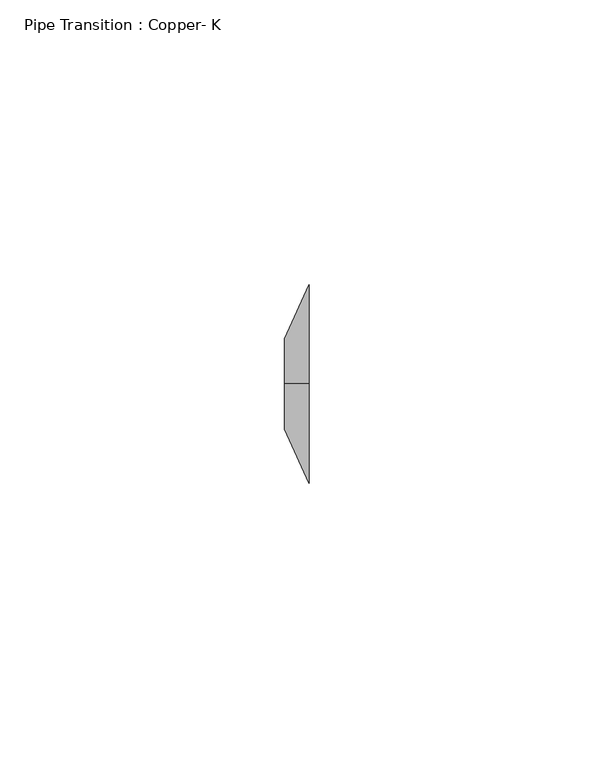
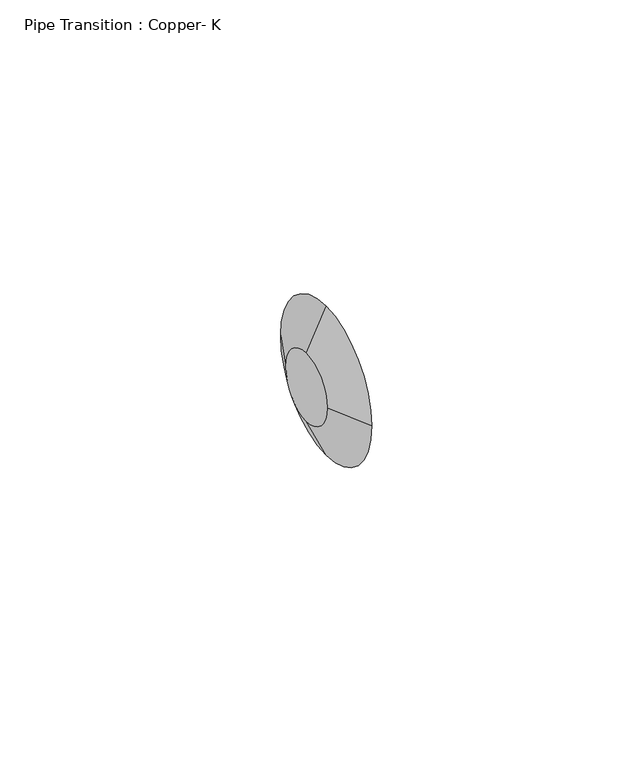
"""IFC4 building model written with IfcOpenShell, lengths in millimetres: pipe fitting geometry, Pipe Transition : Copper- K."""

from ifc_helpers import new_model, si_unit, frame, origin, place, context, project, spatial, polyline, circle_curve, source, transform, mapped, element, save
from ifc_brep_helpers import plane_surface, revolved_surface, advanced_brep


def pipe_transition_copper_k_2a5e9307(model_context):
    return source(origin(), model_context, "Body", "AdvancedBrep", [
        advanced_brep(
        [(4.365625, 0.0, 17.4625), (4.365625, -17.4625, 0.0), (4.365625, 0.0, -17.4625), (4.365625, 17.4625, 0.0), (0.0, 0.0, 7.9375), (0.0, 7.9375, 0.0), (0.0, 0.0, -7.9375), (0.0, -7.9375, 0.0)],
        [
            (0, 1, circle_curve(frame((4.365625, 0.0, 0.0), z_axis=(1.0, 0.0, 0.0), x_axis=(0.0, 0.0, 1.0)), 17.4625)),
            (1, 2, circle_curve(frame((4.365625, 0.0, 0.0), z_axis=(1.0, 0.0, 0.0), x_axis=(0.0, -1.0, 0.0)), 17.4625)),
            (2, 3, circle_curve(frame((4.365625, 0.0, 0.0), z_axis=(1.0, 0.0, 0.0), x_axis=(0.0, 0.0, -1.0)), 17.4625)),
            (3, 0, circle_curve(frame((4.365625, 0.0, 0.0), z_axis=(1.0, 0.0, 0.0), x_axis=(0.0, 1.0, 0.0)), 17.4625)),
            (4, 5, circle_curve(frame((0.0, 0.0, 0.0), z_axis=(-1.0, 0.0, 0.0), x_axis=(0.0, 1.0, 0.0)), 7.9375)),
            (5, 6, circle_curve(frame((0.0, 0.0, 0.0), z_axis=(-1.0, 0.0, 0.0), x_axis=(0.0, 0.0, -1.0)), 7.9375)),
            (6, 7, circle_curve(frame((0.0, 0.0, 0.0), z_axis=(-1.0, 0.0, 0.0), x_axis=(0.0, -1.0, 0.0)), 7.9375)),
            (7, 4, circle_curve(frame((0.0, 0.0, 0.0), z_axis=(-1.0, 0.0, 0.0), x_axis=(0.0, 0.0, 1.0)), 7.9375)),
            (7, 1),
            (0, 4),
            (6, 2),
            (5, 3),
        ],
        [
            plane_surface(frame((4.365625, 0.0, 0.0), z_axis=(1.0, 0.0, 0.0), x_axis=(0.0, -1.0, 0.0))),
            plane_surface(frame((0.0, 0.0, 0.0), z_axis=(-1.0, 0.0, 0.0), x_axis=(0.0, -1.0, 0.0))),
            revolved_surface(polyline([(0.0, -7.9374999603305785, 0.0), (4.365625, -17.4625, 0.0)]), (-3.6380208, 0.0, 0.0), (1.0, 0.0, 0.0)),
            revolved_surface(polyline([(0.0, 0.0, -7.9374999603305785), (4.365625, 0.0, -17.4625)]), (-3.6380208, 0.0, 0.0), (1.0, 0.0, 0.0)),
            revolved_surface(polyline([(0.0, 7.9374999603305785, 0.0), (4.365625, 17.4625, 0.0)]), (-3.6380208, 0.0, 0.0), (1.0, 0.0, 0.0)),
            revolved_surface(polyline([(0.0, 0.0, 7.9374999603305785), (4.365625, 0.0, 17.4625)]), (-3.6380208, 0.0, 0.0), (1.0, 0.0, 0.0)),
        ],
        [
            (0, [[1, 2, 3, 4]]),
            (1, [[5, 6, 7, 8]]),
            (2, [[-8, 9, -1, 10]]),
            (3, [[-7, 11, -2, -9]]),
            (4, [[-6, 12, -3, -11]]),
            (5, [[-5, -10, -4, -12]]),
        ],
    ),
        advanced_brep(
        [(4.365625, 0.0, 17.4625), (4.365625, -17.4625, 0.0), (4.365625, 0.0, -17.4625), (4.365625, 17.4625, 0.0), (0.0, 0.0, 7.9375), (0.0, 7.9375, 0.0), (0.0, 0.0, -7.9375), (0.0, -7.9375, 0.0)],
        [
            (0, 1, circle_curve(frame((4.365625, 0.0, 0.0), z_axis=(1.0, 0.0, -1.9150692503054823e-12), x_axis=(1.9150897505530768e-12, 0.0, 1.0)), 17.4625)),
            (1, 2, circle_curve(frame((4.365625, 0.0, 0.0), z_axis=(1.0, 0.0, -1.8375554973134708e-12), x_axis=(0.0, -1.0, 0.0)), 17.4625)),
            (2, 3, circle_curve(frame((4.365625, 0.0, 0.0), z_axis=(1.0, 0.0, -2.9852811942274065e-12), x_axis=(-2.9852977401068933e-12, 0.0, -1.0)), 17.4625)),
            (3, 0, circle_curve(frame((4.365625, 0.0, 0.0), z_axis=(1.0, 0.0, 0.0), x_axis=(0.0, 1.0, 0.0)), 17.4625)),
            (4, 5, circle_curve(frame((0.0, 0.0, 0.0), z_axis=(-1.0, 0.0, 0.0), x_axis=(0.0, 1.0, 0.0)), 7.9375)),
            (5, 6, circle_curve(frame((0.0, 0.0, 0.0), z_axis=(-1.0, 0.0, 2.9852811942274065e-12), x_axis=(-2.9852977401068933e-12, 0.0, -1.0)), 7.9375)),
            (6, 7, circle_curve(frame((0.0, 0.0, 0.0), z_axis=(-1.0, 0.0, 1.8375554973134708e-12), x_axis=(0.0, -1.0, 0.0)), 7.9375)),
            (7, 4, circle_curve(frame((0.0, 0.0, 0.0), z_axis=(-1.0, 0.0, 1.9150692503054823e-12), x_axis=(1.9150897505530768e-12, 0.0, 1.0)), 7.9375)),
            (7, 1),
            (0, 4),
            (6, 2),
            (5, 3),
        ],
        [
            plane_surface(frame((4.365625, 0.0, 0.0), z_axis=(1.0, 0.0, 0.0), x_axis=(0.0, -1.0, 0.0))),
            plane_surface(frame((0.0, 0.0, 0.0), z_axis=(-1.0, 0.0, 0.0), x_axis=(0.0, -1.0, 0.0))),
            revolved_surface(polyline([(-1.5200729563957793e-11, -7.937499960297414, 0.0), (4.365625, -17.4625, 0.0)]), (-3.6380208, 0.0, 0.0), (1.0, 0.0, -1.9150692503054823e-12)),
            revolved_surface(polyline([(-1.4585666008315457e-11, 0.0, -7.937499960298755), (4.365625, 0.0, -17.4625)]), (-3.6380208, 0.0, 0.0), (1.0, 0.0, -1.8375554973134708e-12)),
            revolved_surface(polyline([(0.0, 7.9374999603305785, 0.0), (4.36562500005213, 17.46250000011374, 0.0)]), (-3.6380208, 0.0, 0.0), (1.0, 0.0, -2.9852811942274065e-12)),
            revolved_surface(polyline([(0.0, 0.0, 7.9374999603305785), (4.365625, 0.0, 17.4625)]), (-3.6380208, 0.0, 0.0), (1.0, 0.0, 0.0)),
        ],
        [
            (0, [[1, 2, 3, 4]]),
            (1, [[5, 6, 7, 8]]),
            (2, [[-8, 9, -1, 10]]),
            (3, [[-7, 11, -2, -9]]),
            (4, [[-6, 12, -3, -11]]),
            (5, [[-5, -10, -4, -12]]),
        ],
    ),
    ])


if __name__ == "__main__":
    model = new_model("IFC4")
    model_context = context("Model", 3, world=origin())
    ifc_project = project(units=[si_unit("LENGTHUNIT", "METRE", prefix="MILLI")], contexts=[model_context])
    site = spatial("IfcSite", under=ifc_project)
    building = spatial("IfcBuilding", under=site)
    placement = place(None, origin())
    pipe_transition_copper_k_shape = pipe_transition_copper_k_2a5e9307(model_context)
    element("IfcPipeFitting", 1, ObjectType="Pipe Transition : Copper- K", at=placement, inside=building, context=model_context, shape_type="MappedRepresentation", body=[
        mapped(pipe_transition_copper_k_shape, transform((0.0, 0.0, 0.0), x_axis=(1.0, 0.0, 0.0), y_axis=(0.0, 1.0, 0.0), z_axis=(0.0, 0.0, 1.0))),
    ])
    save(model, "model.ifc")
